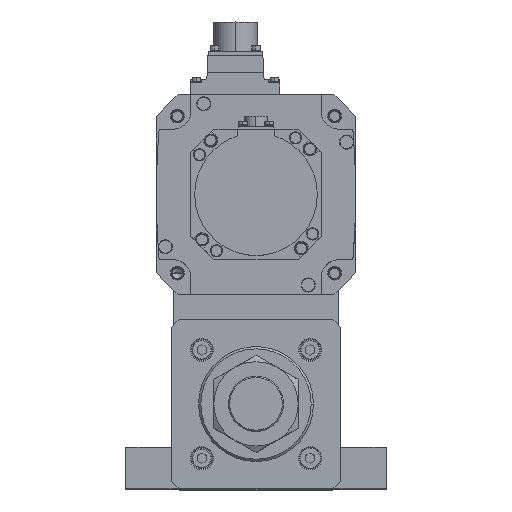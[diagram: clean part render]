
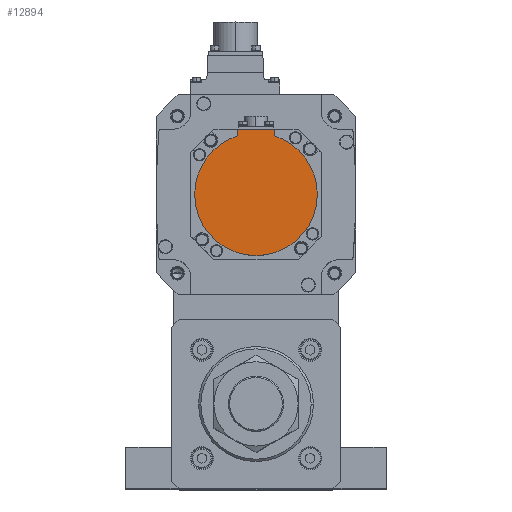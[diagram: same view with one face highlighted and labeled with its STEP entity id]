
A CAD part, top view. The second image highlights one B-rep face of the part: STEP entity #12894.
In plain terms, the highlighted planar face has unit normal (0, 0, 1) as drawn and (0, 0, -1) by its records, which use the part's own axes.
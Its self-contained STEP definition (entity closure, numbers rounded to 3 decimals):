
#392 = VECTOR ( 'NONE', #10825, 1000. ) ;
#764 = EDGE_CURVE ( 'NONE', #22654, #11154, #30080, .T. ) ;
#1189 = VERTEX_POINT ( 'NONE', #30847 ) ;
#1624 = CARTESIAN_POINT ( 'NONE',  ( -12., -40.329, -132.5 ) ) ;
#2351 = EDGE_CURVE ( 'NONE', #18765, #1189, #4726, .T. ) ;
#2827 = LINE ( 'NONE', #17159, #19750 ) ;
#4053 = VERTEX_POINT ( 'NONE', #5700 ) ;
#4694 = DIRECTION ( 'NONE',  ( 0., 1., 0. ) ) ;
#4726 = CIRCLE ( 'NONE', #27482, 40. ) ;
#4905 = CARTESIAN_POINT ( 'NONE',  ( -12., -42.5, -132.5 ) ) ;
#5673 = DIRECTION ( 'NONE',  ( 0., 0., 1. ) ) ;
#5700 = CARTESIAN_POINT ( 'NONE',  ( 12., -42.5, -132.5 ) ) ;
#6252 = ORIENTED_EDGE ( 'NONE', *, *, #2351, .F. ) ;
#7567 = LINE ( 'NONE', #34709, #392 ) ;
#9164 = CARTESIAN_POINT ( 'NONE',  ( -40., 0., -132.5 ) ) ;
#9345 = DIRECTION ( 'NONE',  ( 1., 0., 0. ) ) ;
#10825 = DIRECTION ( 'NONE',  ( 0., 1., 0. ) ) ;
#11154 = VERTEX_POINT ( 'NONE', #12859 ) ;
#11719 = LINE ( 'NONE', #1624, #25209 ) ;
#11721 = ORIENTED_EDGE ( 'NONE', *, *, #18591, .F. ) ;
#12648 = ORIENTED_EDGE ( 'NONE', *, *, #30433, .T. ) ;
#12859 = CARTESIAN_POINT ( 'NONE',  ( 40., 0., -132.5 ) ) ;
#12894 = ADVANCED_FACE ( 'NONE', ( #34806 ), #18023, .F. ) ;
#13439 = AXIS2_PLACEMENT_3D ( 'NONE', #28293, #25457, #9345 ) ;
#14272 = EDGE_LOOP ( 'NONE', ( #34484, #6252, #24018, #32881, #11721, #12648 ) ) ;
#15314 = DIRECTION ( 'NONE',  ( 0., 0., 1. ) ) ;
#16419 = DIRECTION ( 'NONE',  ( 1., 0., 0. ) ) ;
#16646 = DIRECTION ( 'NONE',  ( 0., 0., 1. ) ) ;
#17159 = CARTESIAN_POINT ( 'NONE',  ( 0., -42.5, -132.5 ) ) ;
#18023 = PLANE ( 'NONE',  #29795 ) ;
#18591 = EDGE_CURVE ( 'NONE', #4053, #22654, #7567, .T. ) ;
#18765 = VERTEX_POINT ( 'NONE', #9164 ) ;
#19750 = VECTOR ( 'NONE', #20007, 1000. ) ;
#20007 = DIRECTION ( 'NONE',  ( -1., 0., 0. ) ) ;
#20612 = DIRECTION ( 'NONE',  ( 1., 0., 0. ) ) ;
#22654 = VERTEX_POINT ( 'NONE', #25195 ) ;
#24018 = ORIENTED_EDGE ( 'NONE', *, *, #34779, .F. ) ;
#24425 = DIRECTION ( 'NONE',  ( 1., 0., 0. ) ) ;
#24636 = CARTESIAN_POINT ( 'NONE',  ( 0., 0., -132.5 ) ) ;
#25195 = CARTESIAN_POINT ( 'NONE',  ( 12., -38.158, -132.5 ) ) ;
#25209 = VECTOR ( 'NONE', #4694, 1000. ) ;
#25457 = DIRECTION ( 'NONE',  ( 0., 0., 1. ) ) ;
#26011 = CARTESIAN_POINT ( 'NONE',  ( 0., -1.249, -132.5 ) ) ;
#27482 = AXIS2_PLACEMENT_3D ( 'NONE', #24636, #5673, #16419 ) ;
#28293 = CARTESIAN_POINT ( 'NONE',  ( 0., 0., -132.5 ) ) ;
#28913 = EDGE_CURVE ( 'NONE', #29088, #1189, #11719, .T. ) ;
#29088 = VERTEX_POINT ( 'NONE', #4905 ) ;
#29554 = CIRCLE ( 'NONE', #34573, 40. ) ;
#29795 = AXIS2_PLACEMENT_3D ( 'NONE', #26011, #15314, #20612 ) ;
#30080 = CIRCLE ( 'NONE', #13439, 40. ) ;
#30433 = EDGE_CURVE ( 'NONE', #4053, #29088, #2827, .T. ) ;
#30847 = CARTESIAN_POINT ( 'NONE',  ( -12., -38.158, -132.5 ) ) ;
#32317 = CARTESIAN_POINT ( 'NONE',  ( 0., 0., -132.5 ) ) ;
#32881 = ORIENTED_EDGE ( 'NONE', *, *, #764, .F. ) ;
#34484 = ORIENTED_EDGE ( 'NONE', *, *, #28913, .T. ) ;
#34573 = AXIS2_PLACEMENT_3D ( 'NONE', #32317, #16646, #24425 ) ;
#34709 = CARTESIAN_POINT ( 'NONE',  ( 12., -1.249, -132.5 ) ) ;
#34779 = EDGE_CURVE ( 'NONE', #11154, #18765, #29554, .T. ) ;
#34806 = FACE_OUTER_BOUND ( 'NONE', #14272, .T. ) ;
